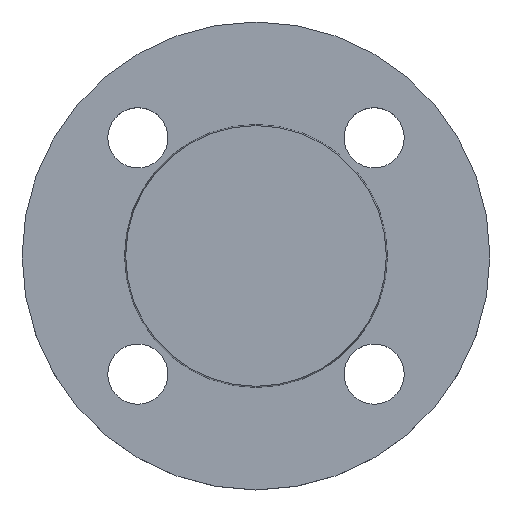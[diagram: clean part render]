
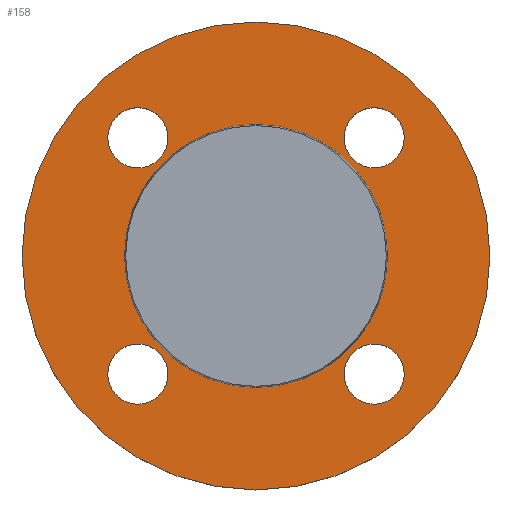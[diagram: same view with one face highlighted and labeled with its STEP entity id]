
A CAD part, top view. The second image highlights one B-rep face of the part: STEP entity #158.
In plain terms, the highlighted planar face has unit normal (0, 0, 1).
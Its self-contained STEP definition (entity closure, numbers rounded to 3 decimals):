
#2 = EDGE_CURVE ( 'NONE', #457, #198, #284, .T. ) ;
#6 = VERTEX_POINT ( 'NONE', #164 ) ;
#10 = CARTESIAN_POINT ( 'NONE',  ( 0., 0., -2. ) ) ;
#11 = CARTESIAN_POINT ( 'NONE',  ( -44.355, -35.355, -2. ) ) ;
#14 = DIRECTION ( 'NONE',  ( 0., 0., -1. ) ) ;
#15 = CARTESIAN_POINT ( 'NONE',  ( 26.355, -35.355, -2. ) ) ;
#16 = CIRCLE ( 'NONE', #45, 39.353 ) ;
#19 = EDGE_LOOP ( 'NONE', ( #185, #69 ) ) ;
#20 = CARTESIAN_POINT ( 'NONE',  ( -39.353, 0., -2. ) ) ;
#24 = FACE_BOUND ( 'NONE', #293, .T. ) ;
#28 = EDGE_CURVE ( 'NONE', #148, #482, #16, .T. ) ;
#33 = ORIENTED_EDGE ( 'NONE', *, *, #371, .T. ) ;
#38 = DIRECTION ( 'NONE',  ( 1., 0., 0. ) ) ;
#40 = CIRCLE ( 'NONE', #335, 9. ) ;
#41 = VERTEX_POINT ( 'NONE', #11 ) ;
#44 = CARTESIAN_POINT ( 'NONE',  ( -35.355, 35.355, -2. ) ) ;
#45 = AXIS2_PLACEMENT_3D ( 'NONE', #320, #485, #129 ) ;
#53 = DIRECTION ( 'NONE',  ( 1., 0., 0. ) ) ;
#55 = EDGE_LOOP ( 'NONE', ( #265, #188 ) ) ;
#57 = CARTESIAN_POINT ( 'NONE',  ( 35.355, -35.355, -2. ) ) ;
#60 = EDGE_LOOP ( 'NONE', ( #157, #110 ) ) ;
#61 = FACE_BOUND ( 'NONE', #262, .T. ) ;
#63 = VERTEX_POINT ( 'NONE', #376 ) ;
#64 = AXIS2_PLACEMENT_3D ( 'NONE', #231, #403, #38 ) ;
#67 = VERTEX_POINT ( 'NONE', #15 ) ;
#68 = EDGE_CURVE ( 'NONE', #431, #63, #225, .T. ) ;
#69 = ORIENTED_EDGE ( 'NONE', *, *, #68, .F. ) ;
#70 = CIRCLE ( 'NONE', #362, 70. ) ;
#83 = AXIS2_PLACEMENT_3D ( 'NONE', #331, #493, #135 ) ;
#91 = DIRECTION ( 'NONE',  ( 1., 0., 0. ) ) ;
#96 = DIRECTION ( 'NONE',  ( 0., 0., -1. ) ) ;
#110 = ORIENTED_EDGE ( 'NONE', *, *, #28, .T. ) ;
#120 = VERTEX_POINT ( 'NONE', #251 ) ;
#126 = CARTESIAN_POINT ( 'NONE',  ( 0., 0., -2. ) ) ;
#129 = DIRECTION ( 'NONE',  ( -1., 0., 0. ) ) ;
#135 = DIRECTION ( 'NONE',  ( 1., 0., 0. ) ) ;
#138 = EDGE_LOOP ( 'NONE', ( #474, #266 ) ) ;
#142 = CARTESIAN_POINT ( 'NONE',  ( 39.353, 0., -2. ) ) ;
#148 = VERTEX_POINT ( 'NONE', #463 ) ;
#151 = AXIS2_PLACEMENT_3D ( 'NONE', #460, #96, #250 ) ;
#155 = CIRCLE ( 'NONE', #458, 39.353 ) ;
#157 = ORIENTED_EDGE ( 'NONE', *, *, #347, .T. ) ;
#158 = ADVANCED_FACE ( 'NONE', ( #61, #217, #387, #24, #180, #339 ), #502, .T. ) ;
#164 = CARTESIAN_POINT ( 'NONE',  ( -26.355, -35.355, -2. ) ) ;
#165 = DIRECTION ( 'NONE',  ( 0., 0., -1. ) ) ;
#170 = DIRECTION ( 'NONE',  ( 1., 0., 0. ) ) ;
#171 = CARTESIAN_POINT ( 'NONE',  ( 0., 0., -2. ) ) ;
#178 = AXIS2_PLACEMENT_3D ( 'NONE', #286, #455, #91 ) ;
#180 = FACE_BOUND ( 'NONE', #60, .T. ) ;
#185 = ORIENTED_EDGE ( 'NONE', *, *, #357, .F. ) ;
#188 = ORIENTED_EDGE ( 'NONE', *, *, #391, .T. ) ;
#191 = CARTESIAN_POINT ( 'NONE',  ( 44.355, -35.355, -2. ) ) ;
#198 = VERTEX_POINT ( 'NONE', #259 ) ;
#201 = DIRECTION ( 'NONE',  ( 0., 0., -1. ) ) ;
#214 = DIRECTION ( 'NONE',  ( 0., 0., -1. ) ) ;
#217 = FACE_BOUND ( 'NONE', #138, .T. ) ;
#218 = AXIS2_PLACEMENT_3D ( 'NONE', #57, #214, #382 ) ;
#221 = VERTEX_POINT ( 'NONE', #191 ) ;
#225 = CIRCLE ( 'NONE', #472, 70. ) ;
#231 = CARTESIAN_POINT ( 'NONE',  ( -35.355, -35.355, -2. ) ) ;
#235 = AXIS2_PLACEMENT_3D ( 'NONE', #244, #419, #53 ) ;
#244 = CARTESIAN_POINT ( 'NONE',  ( -35.355, 35.355, -2. ) ) ;
#250 = DIRECTION ( 'NONE',  ( 1., 0., 0. ) ) ;
#251 = CARTESIAN_POINT ( 'NONE',  ( 26.355, 35.355, -2. ) ) ;
#258 = VERTEX_POINT ( 'NONE', #475 ) ;
#259 = CARTESIAN_POINT ( 'NONE',  ( -44.355, 35.355, -2. ) ) ;
#262 = EDGE_LOOP ( 'NONE', ( #33, #471 ) ) ;
#265 = ORIENTED_EDGE ( 'NONE', *, *, #2, .T. ) ;
#266 = ORIENTED_EDGE ( 'NONE', *, *, #411, .T. ) ;
#267 = AXIS2_PLACEMENT_3D ( 'NONE', #44, #201, #368 ) ;
#279 = CIRCLE ( 'NONE', #64, 9. ) ;
#281 = DIRECTION ( 'NONE',  ( 0., 0., -1. ) ) ;
#284 = CIRCLE ( 'NONE', #267, 9. ) ;
#286 = CARTESIAN_POINT ( 'NONE',  ( 35.355, 35.355, -2. ) ) ;
#290 = CARTESIAN_POINT ( 'NONE',  ( -70., 0., -2. ) ) ;
#293 = EDGE_LOOP ( 'NONE', ( #441, #350 ) ) ;
#296 = DIRECTION ( 'NONE',  ( 0., 0., 1. ) ) ;
#305 = CIRCLE ( 'NONE', #83, 9. ) ;
#320 = CARTESIAN_POINT ( 'NONE',  ( 0., 0., -2. ) ) ;
#324 = DIRECTION ( 'NONE',  ( -1., 0., 0. ) ) ;
#329 = DIRECTION ( 'NONE',  ( 0., 0., -1. ) ) ;
#331 = CARTESIAN_POINT ( 'NONE',  ( -35.355, -35.355, -2. ) ) ;
#335 = AXIS2_PLACEMENT_3D ( 'NONE', #375, #14, #170 ) ;
#339 = FACE_OUTER_BOUND ( 'NONE', #19, .T. ) ;
#347 = EDGE_CURVE ( 'NONE', #482, #148, #155, .T. ) ;
#350 = ORIENTED_EDGE ( 'NONE', *, *, #384, .T. ) ;
#352 = AXIS2_PLACEMENT_3D ( 'NONE', #142, #296, #465 ) ;
#357 = EDGE_CURVE ( 'NONE', #63, #431, #70, .T. ) ;
#362 = AXIS2_PLACEMENT_3D ( 'NONE', #10, #165, #324 ) ;
#368 = DIRECTION ( 'NONE',  ( 1., 0., 0. ) ) ;
#371 = EDGE_CURVE ( 'NONE', #221, #67, #40, .T. ) ;
#375 = CARTESIAN_POINT ( 'NONE',  ( 35.355, -35.355, -2. ) ) ;
#376 = CARTESIAN_POINT ( 'NONE',  ( 70., 0., -2. ) ) ;
#382 = DIRECTION ( 'NONE',  ( 1., 0., 0. ) ) ;
#384 = EDGE_CURVE ( 'NONE', #120, #258, #406, .T. ) ;
#386 = CIRCLE ( 'NONE', #151, 9. ) ;
#387 = FACE_BOUND ( 'NONE', #55, .T. ) ;
#391 = EDGE_CURVE ( 'NONE', #198, #457, #473, .T. ) ;
#403 = DIRECTION ( 'NONE',  ( 0., 0., -1. ) ) ;
#406 = CIRCLE ( 'NONE', #178, 9. ) ;
#411 = EDGE_CURVE ( 'NONE', #41, #6, #305, .T. ) ;
#419 = DIRECTION ( 'NONE',  ( 0., 0., -1. ) ) ;
#423 = CARTESIAN_POINT ( 'NONE',  ( -26.355, 35.355, -2. ) ) ;
#431 = VERTEX_POINT ( 'NONE', #290 ) ;
#434 = EDGE_CURVE ( 'NONE', #258, #120, #386, .T. ) ;
#441 = ORIENTED_EDGE ( 'NONE', *, *, #434, .T. ) ;
#446 = CIRCLE ( 'NONE', #218, 9. ) ;
#448 = DIRECTION ( 'NONE',  ( -1., 0., 0. ) ) ;
#455 = DIRECTION ( 'NONE',  ( 0., 0., -1. ) ) ;
#457 = VERTEX_POINT ( 'NONE', #423 ) ;
#458 = AXIS2_PLACEMENT_3D ( 'NONE', #126, #281, #448 ) ;
#460 = CARTESIAN_POINT ( 'NONE',  ( 35.355, 35.355, -2. ) ) ;
#463 = CARTESIAN_POINT ( 'NONE',  ( 39.353, 0., -2. ) ) ;
#465 = DIRECTION ( 'NONE',  ( 1., 0., 0. ) ) ;
#471 = ORIENTED_EDGE ( 'NONE', *, *, #476, .T. ) ;
#472 = AXIS2_PLACEMENT_3D ( 'NONE', #171, #329, #490 ) ;
#473 = CIRCLE ( 'NONE', #235, 9. ) ;
#474 = ORIENTED_EDGE ( 'NONE', *, *, #497, .T. ) ;
#475 = CARTESIAN_POINT ( 'NONE',  ( 44.355, 35.355, -2. ) ) ;
#476 = EDGE_CURVE ( 'NONE', #67, #221, #446, .T. ) ;
#482 = VERTEX_POINT ( 'NONE', #20 ) ;
#485 = DIRECTION ( 'NONE',  ( 0., 0., -1. ) ) ;
#490 = DIRECTION ( 'NONE',  ( -1., 0., 0. ) ) ;
#493 = DIRECTION ( 'NONE',  ( 0., 0., -1. ) ) ;
#497 = EDGE_CURVE ( 'NONE', #6, #41, #279, .T. ) ;
#502 = PLANE ( 'NONE',  #352 ) ;
